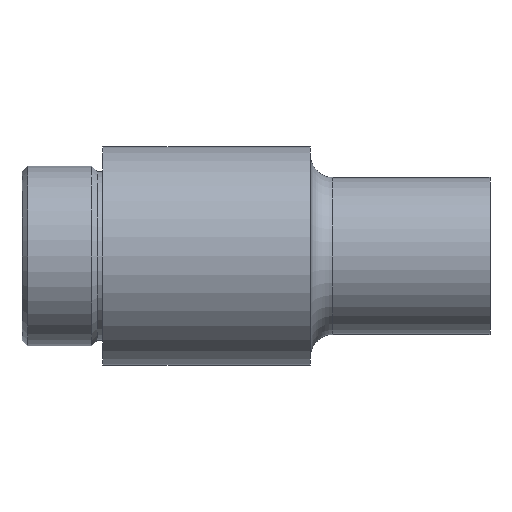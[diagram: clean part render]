
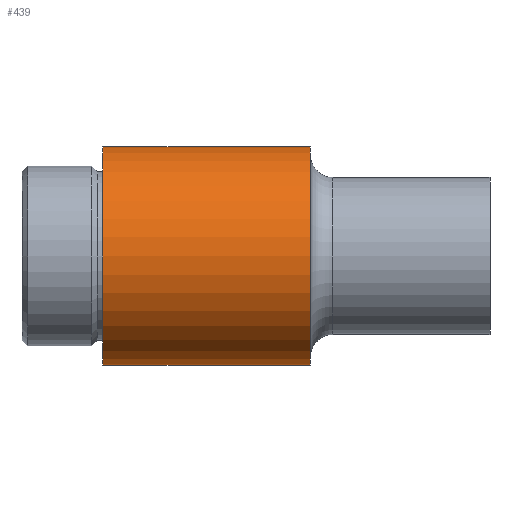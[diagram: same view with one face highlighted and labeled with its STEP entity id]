
A CAD part, left-side view. The second image highlights one B-rep face of the part: STEP entity #439.
In plain terms, the highlighted cylindrical face has radius 15.469 mm (diameter 30.937 mm), a partial arc.
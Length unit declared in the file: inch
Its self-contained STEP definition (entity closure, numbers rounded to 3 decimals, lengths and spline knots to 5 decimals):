
#9 = EDGE_CURVE ( 'NONE', #108, #184, #336, .T. ) ;
#29 = CARTESIAN_POINT ( 'NONE',  ( 0., 0.63125, -0.609 ) ) ;
#49 = DIRECTION ( 'NONE',  ( 0., 0., -1. ) ) ;
#108 = VERTEX_POINT ( 'NONE', #220 ) ;
#134 = AXIS2_PLACEMENT_3D ( 'NONE', #232, #477, #49 ) ;
#161 = VERTEX_POINT ( 'NONE', #415 ) ;
#165 = LINE ( 'NONE', #590, #318 ) ;
#167 = DIRECTION ( 'NONE',  ( 0., -1., 0. ) ) ;
#184 = VERTEX_POINT ( 'NONE', #29 ) ;
#203 = DIRECTION ( 'NONE',  ( 0., -1., 0. ) ) ;
#213 = ORIENTED_EDGE ( 'NONE', *, *, #442, .F. ) ;
#220 = CARTESIAN_POINT ( 'NONE',  ( 0., 0.63125, 0.609 ) ) ;
#232 = CARTESIAN_POINT ( 'NONE',  ( 0., 0., 0. ) ) ;
#236 = VECTOR ( 'NONE', #526, 39.37008 ) ;
#245 = FACE_OUTER_BOUND ( 'NONE', #553, .T. ) ;
#266 = CARTESIAN_POINT ( 'NONE',  ( 0., 0.63125, 0. ) ) ;
#285 = VERTEX_POINT ( 'NONE', #329 ) ;
#303 = DIRECTION ( 'NONE',  ( 0., -1., 0. ) ) ;
#318 = VECTOR ( 'NONE', #303, 39.37008 ) ;
#329 = CARTESIAN_POINT ( 'NONE',  ( 0., -0.52475, -0.609 ) ) ;
#332 = AXIS2_PLACEMENT_3D ( 'NONE', #266, #167, #396 ) ;
#336 = CIRCLE ( 'NONE', #332, 0.609 ) ;
#340 = CYLINDRICAL_SURFACE ( 'NONE', #134, 0.609 ) ;
#396 = DIRECTION ( 'NONE',  ( 0., 0., -1. ) ) ;
#408 = ORIENTED_EDGE ( 'NONE', *, *, #496, .F. ) ;
#414 = AXIS2_PLACEMENT_3D ( 'NONE', #436, #203, #582 ) ;
#415 = CARTESIAN_POINT ( 'NONE',  ( 0., -0.52475, 0.609 ) ) ;
#436 = CARTESIAN_POINT ( 'NONE',  ( 0., -0.52475, 0. ) ) ;
#439 = ADVANCED_FACE ( 'NONE', ( #245 ), #340, .T. ) ;
#442 = EDGE_CURVE ( 'NONE', #108, #161, #547, .T. ) ;
#477 = DIRECTION ( 'NONE',  ( 0., -1., 0. ) ) ;
#486 = CIRCLE ( 'NONE', #414, 0.609 ) ;
#496 = EDGE_CURVE ( 'NONE', #161, #285, #486, .T. ) ;
#521 = ORIENTED_EDGE ( 'NONE', *, *, #602, .T. ) ;
#526 = DIRECTION ( 'NONE',  ( 0., -1., 0. ) ) ;
#536 = ORIENTED_EDGE ( 'NONE', *, *, #9, .T. ) ;
#547 = LINE ( 'NONE', #615, #236 ) ;
#553 = EDGE_LOOP ( 'NONE', ( #213, #536, #521, #408 ) ) ;
#582 = DIRECTION ( 'NONE',  ( 0., 0., -1. ) ) ;
#590 = CARTESIAN_POINT ( 'NONE',  ( 0., 0., -0.609 ) ) ;
#602 = EDGE_CURVE ( 'NONE', #184, #285, #165, .T. ) ;
#615 = CARTESIAN_POINT ( 'NONE',  ( 0., 0., 0.609 ) ) ;
